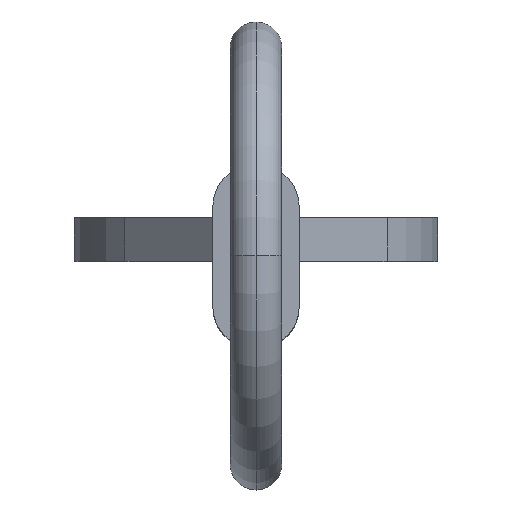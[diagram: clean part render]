
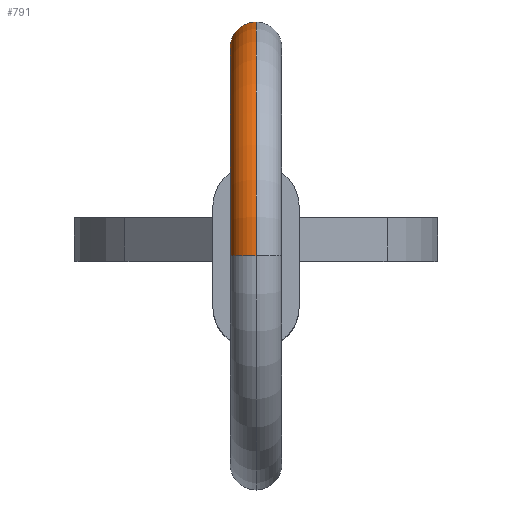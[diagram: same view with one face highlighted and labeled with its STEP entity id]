
A CAD part, top view. The second image highlights one B-rep face of the part: STEP entity #791.
In plain terms, the highlighted toroidal (fillet/blend) face has major radius 4.8 mm and minor radius 0.595 mm.
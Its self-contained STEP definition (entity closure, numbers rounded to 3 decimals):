
#24 = FACE_OUTER_BOUND ( 'NONE', #236, .T. ) ;
#25 = VERTEX_POINT ( 'NONE', #399 ) ;
#52 = DIRECTION ( 'NONE',  ( 1., 0., 0. ) ) ;
#98 = AXIS2_PLACEMENT_3D ( 'NONE', #334, #853, #779 ) ;
#115 = EDGE_CURVE ( 'NONE', #368, #582, #517, .T. ) ;
#156 = CARTESIAN_POINT ( 'NONE',  ( 0., -1.133, 137.4 ) ) ;
#168 = DIRECTION ( 'NONE',  ( 0., 0., 1. ) ) ;
#176 = CIRCLE ( 'NONE', #211, 4.205 ) ;
#187 = EDGE_CURVE ( 'NONE', #25, #371, #476, .T. ) ;
#211 = AXIS2_PLACEMENT_3D ( 'NONE', #445, #819, #518 ) ;
#236 = EDGE_LOOP ( 'NONE', ( #375, #755, #522, #346 ) ) ;
#302 = CARTESIAN_POINT ( 'NONE',  ( 0., -1.133, 141.605 ) ) ;
#305 = EDGE_CURVE ( 'NONE', #371, #582, #176, .T. ) ;
#311 = AXIS2_PLACEMENT_3D ( 'NONE', #512, #808, #441 ) ;
#334 = CARTESIAN_POINT ( 'NONE',  ( 0., -1.133, 142.2 ) ) ;
#346 = ORIENTED_EDGE ( 'NONE', *, *, #305, .F. ) ;
#368 = VERTEX_POINT ( 'NONE', #660 ) ;
#369 = DIRECTION ( 'NONE',  ( -1., 0., 0. ) ) ;
#371 = VERTEX_POINT ( 'NONE', #302 ) ;
#375 = ORIENTED_EDGE ( 'NONE', *, *, #187, .F. ) ;
#399 = CARTESIAN_POINT ( 'NONE',  ( 0., -1.133, 142.795 ) ) ;
#441 = DIRECTION ( 'NONE',  ( 0., 0., 1. ) ) ;
#445 = CARTESIAN_POINT ( 'NONE',  ( 0., -1.133, 137.4 ) ) ;
#476 = CIRCLE ( 'NONE', #98, 0.595 ) ;
#488 = CARTESIAN_POINT ( 'NONE',  ( 0., 2.445, 134.2 ) ) ;
#512 = CARTESIAN_POINT ( 'NONE',  ( 0., -1.133, 137.4 ) ) ;
#517 = CIRCLE ( 'NONE', #893, 0.595 ) ;
#518 = DIRECTION ( 'NONE',  ( 0., 0., 1. ) ) ;
#522 = ORIENTED_EDGE ( 'NONE', *, *, #115, .T. ) ;
#582 = VERTEX_POINT ( 'NONE', #934 ) ;
#649 = EDGE_CURVE ( 'NONE', #25, #368, #754, .T. ) ;
#660 = CARTESIAN_POINT ( 'NONE',  ( 0., 2.888, 133.803 ) ) ;
#739 = TOROIDAL_SURFACE ( 'NONE', #311, 4.8, 0.595 ) ;
#754 = CIRCLE ( 'NONE', #848, 5.395 ) ;
#755 = ORIENTED_EDGE ( 'NONE', *, *, #649, .T. ) ;
#779 = DIRECTION ( 'NONE',  ( 0., 0., -1. ) ) ;
#783 = DIRECTION ( 'NONE',  ( 0., 0.667, 0.745 ) ) ;
#791 = ADVANCED_FACE ( 'NONE', ( #24 ), #739, .T. ) ;
#808 = DIRECTION ( 'NONE',  ( -1., 0., 0. ) ) ;
#819 = DIRECTION ( 'NONE',  ( -1., 0., 0. ) ) ;
#848 = AXIS2_PLACEMENT_3D ( 'NONE', #156, #369, #168 ) ;
#853 = DIRECTION ( 'NONE',  ( 0., -1., 0. ) ) ;
#893 = AXIS2_PLACEMENT_3D ( 'NONE', #488, #783, #52 ) ;
#934 = CARTESIAN_POINT ( 'NONE',  ( 0., 2.001, 134.597 ) ) ;
